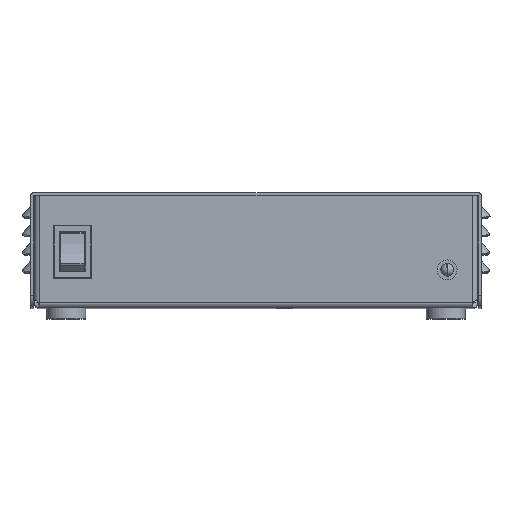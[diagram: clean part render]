
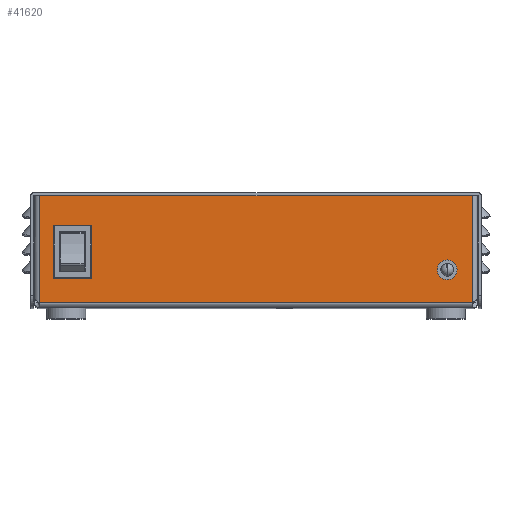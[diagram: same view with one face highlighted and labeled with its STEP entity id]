
A CAD part, top view. The second image highlights one B-rep face of the part: STEP entity #41620.
In plain terms, the highlighted planar face has unit normal (0, 0, 1).
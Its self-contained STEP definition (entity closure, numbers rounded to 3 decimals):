
#19500=CARTESIAN_POINT('',(-85.5,3.3,92.5));
#19510=DIRECTION('',(1.,0.,0.));
#19520=VECTOR('',#19510,1.);
#19530=LINE('',#19500,#19520);
#19540=CARTESIAN_POINT('',(-85.5,3.3,92.5));
#19550=VERTEX_POINT('',#19540);
#19560=CARTESIAN_POINT('',(85.5,3.3,92.5));
#19570=VERTEX_POINT('',#19560);
#19580=EDGE_CURVE('',#19550,#19570,#19530,.T.);
#40680=CARTESIAN_POINT('',(85.5,45.6,92.5));
#40690=VERTEX_POINT('',#40680);
#40810=CARTESIAN_POINT('',(85.5,3.3,92.5));
#40820=DIRECTION('',(0.,1.,0.));
#40830=VECTOR('',#40820,1.);
#40840=LINE('',#40810,#40830);
#40850=EDGE_CURVE('',#19570,#40690,#40840,.T.);
#40900=CARTESIAN_POINT('',(-88.92,2.47,92.5));
#40910=DIRECTION('',(0.,0.,1.));
#40920=DIRECTION('',(1.,0.,0.));
#40930=AXIS2_PLACEMENT_3D('',#40900,#40910,#40920);
#40940=PLANE('',#40930);
#40950=CARTESIAN_POINT('',(-85.5,45.6,92.5));
#40960=DIRECTION('',(0.,-1.,0.));
#40970=VECTOR('',#40960,1.);
#40980=LINE('',#40950,#40970);
#40990=CARTESIAN_POINT('',(-85.5,45.6,92.5));
#41000=VERTEX_POINT('',#40990);
#41010=EDGE_CURVE('',#41000,#19550,#40980,.T.);
#41020=ORIENTED_EDGE('',*,*,#41010,.T.);
#41030=CARTESIAN_POINT('',(0.,45.6,92.5));
#41040=DIRECTION('',(-1.,0.,0.));
#41050=VECTOR('',#41040,1.);
#41060=LINE('',#41030,#41050);
#41070=EDGE_CURVE('',#40690,#41000,#41060,.T.);
#41080=ORIENTED_EDGE('',*,*,#41070,.T.);
#41090=ORIENTED_EDGE('',*,*,#40850,.T.);
#41100=ORIENTED_EDGE('',*,*,#19580,.T.);
#41110=EDGE_LOOP('',(#41100,#41090,#41080,#41020));
#41120=FACE_OUTER_BOUND('',#41110,.T.);
#41130=CARTESIAN_POINT('',(75.5,16.3,92.5));
#41140=DIRECTION('',(0.,0.,1.));
#41150=DIRECTION('',(-1.,0.003,0.));
#41160=AXIS2_PLACEMENT_3D('',#41130,#41140,#41150);
#41170=CIRCLE('',#41160,3.2);
#41180=CARTESIAN_POINT('',(78.7,16.291,92.5));
#41190=VERTEX_POINT('',#41180);
#41200=CARTESIAN_POINT('',(72.3,16.309,92.5));
#41210=VERTEX_POINT('',#41200);
#41220=EDGE_CURVE('',#41190,#41210,#41170,.T.);
#41230=ORIENTED_EDGE('',*,*,#41220,.F.);
#41240=EDGE_CURVE('',#41210,#41190,#41170,.T.);
#41250=ORIENTED_EDGE('',*,*,#41240,.F.);
#41260=EDGE_LOOP('',(#41250,#41230));
#41270=FACE_BOUND('',#41260,.T.);
#41280=CARTESIAN_POINT('',(-66.,33.25,92.5));
#41290=DIRECTION('',(-1.,0.,0.));
#41300=VECTOR('',#41290,1.);
#41310=LINE('',#41280,#41300);
#41320=CARTESIAN_POINT('',(-66.,33.25,92.5));
#41330=VERTEX_POINT('',#41320);
#41340=CARTESIAN_POINT('',(-79.,33.25,92.5));
#41350=VERTEX_POINT('',#41340);
#41360=EDGE_CURVE('',#41330,#41350,#41310,.T.);
#41370=ORIENTED_EDGE('',*,*,#41360,.F.);
#41380=CARTESIAN_POINT('',(-79.,33.25,92.5));
#41390=DIRECTION('',(0.,-1.,0.));
#41400=VECTOR('',#41390,1.);
#41410=LINE('',#41380,#41400);
#41420=CARTESIAN_POINT('',(-79.,13.75,92.5));
#41430=VERTEX_POINT('',#41420);
#41440=EDGE_CURVE('',#41350,#41430,#41410,.T.);
#41450=ORIENTED_EDGE('',*,*,#41440,.F.);
#41460=CARTESIAN_POINT('',(-79.,13.75,92.5));
#41470=DIRECTION('',(1.,0.,0.));
#41480=VECTOR('',#41470,1.);
#41490=LINE('',#41460,#41480);
#41500=CARTESIAN_POINT('',(-66.,13.75,92.5));
#41510=VERTEX_POINT('',#41500);
#41520=EDGE_CURVE('',#41430,#41510,#41490,.T.);
#41530=ORIENTED_EDGE('',*,*,#41520,.F.);
#41540=CARTESIAN_POINT('',(-66.,13.75,92.5));
#41550=DIRECTION('',(0.,1.,0.));
#41560=VECTOR('',#41550,1.);
#41570=LINE('',#41540,#41560);
#41580=EDGE_CURVE('',#41510,#41330,#41570,.T.);
#41590=ORIENTED_EDGE('',*,*,#41580,.F.);
#41600=EDGE_LOOP('',(#41590,#41530,#41450,#41370));
#41610=FACE_BOUND('',#41600,.T.);
#41620=ADVANCED_FACE('',(#41120,#41270,#41610),#40940,.T.);
